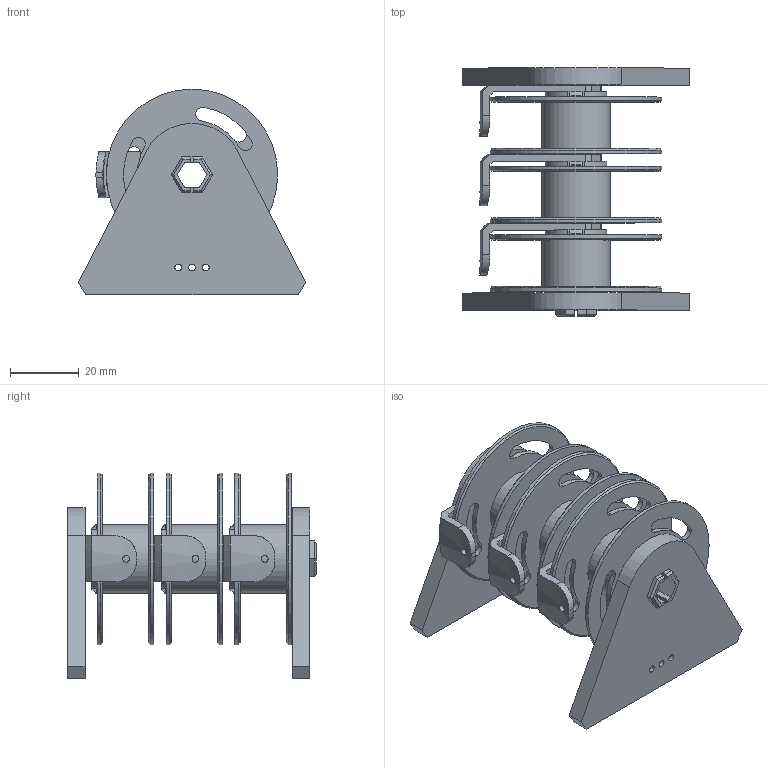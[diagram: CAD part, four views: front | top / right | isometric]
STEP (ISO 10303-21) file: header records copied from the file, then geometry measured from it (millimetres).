
FILE_DESCRIPTION(/* description */ (''),/* implementation_level */ '2;1');
FILE_NAME(/* name */ 'wire spool set.step',/* time_stamp */ '2025-12-27T20:43:54+01:00',/* author */ (''),/* organization */ (''),/* preprocessor_version */ 'ST-DEVELOPER v20.1',/* originating_system */ 'Autodesk Translation Framework v14.21.0.0',/* authorisation */ '');
FILE_SCHEMA (('AUTOMOTIVE_DESIGN { 1 0 10303 214 3 1 1 }'));
Length unit declared in the file: millimetre
Products named in the file (9): slupki; rolka; Komponent2; Komponent3; Komponent1; rolka_1; rolka_2; Komponent1_1; Komponent2_1
Assembly tree (14 placements, depth 3):
  slupki
    rolka
      Komponent1_1
      Komponent2_1
    Komponent2
    Komponent3
    Komponent1  x3
    rolka_1
      Komponent1_1
      Komponent2_1
    rolka_2
      Komponent1_1
      Komponent2_1
Bounding box: 66.32 x 72.4 x 60 mm (x, y, z)
Volume: 46886.9 mm3; surface area: 52019.9 mm2
Topology: 11 solids, 11 shells, 422 faces, 1128 edges, 731 vertices
Faces by surface type: plane 267, cylinder 137, cone 18
Full cylindrical faces by diameter (mm): 2 x9, 16.2 x3, 18 x6, 20 x3, 50 x6
Entity records: 5960 total; most frequent: CARTESIAN_POINT 1105, DIRECTION 981, ORIENTED_EDGE 952, EDGE_CURVE 476, LINE 343, VECTOR 343, AXIS2_PLACEMENT_3D 319, VERTEX_POINT 309
